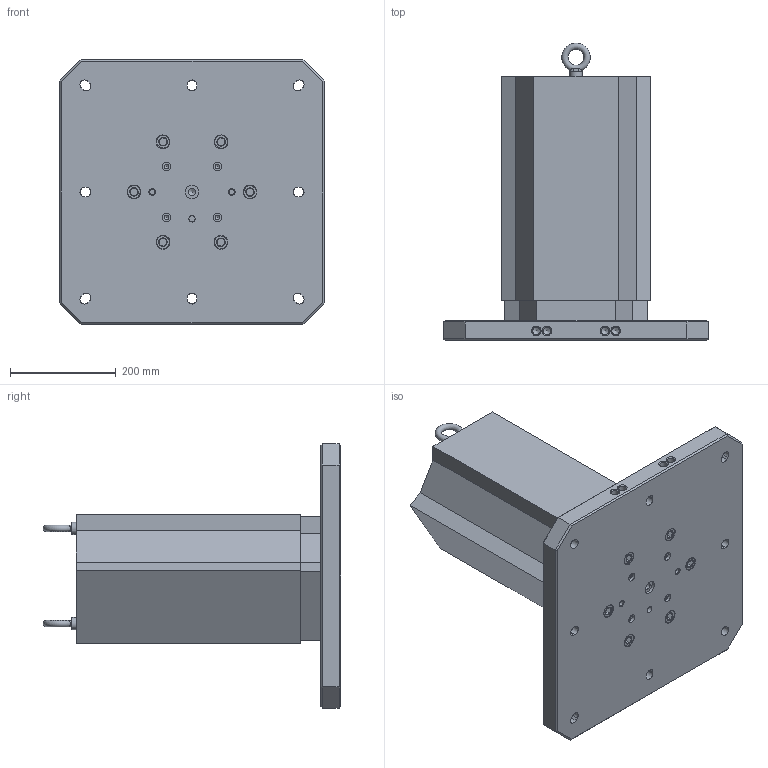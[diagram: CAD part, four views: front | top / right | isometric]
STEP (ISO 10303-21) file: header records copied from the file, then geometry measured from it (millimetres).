
FILE_DESCRIPTION (( 'STEP AP214' ), '1' );
FILE_NAME ('MTA-5003U-500_WEBSITE.step', '2025-08-11T12:53:04', ( '' ), ( '' ), 'SwSTEP 2.0', 'SolidWorks 2024', '' );
FILE_SCHEMA (( 'AUTOMOTIVE_DESIGN' ));
Length unit declared in the file: millimetre
Products named in the file (7): M12X24MM.EB (McM 3040T15)_WEBSITE_3040T15; MTA-5003U-500_WEBSITE; RL96-14TC_WEBSITE; MT-3462A_WEBSITE_MACHINABLE TOWER; HW.76452_dev_WEBSITE_91290A835; HW.76172_WEBSITE; RL96-5003BUA_WEBSITE
Assembly tree (15 placements, depth 2):
  MTA-5003U-500_WEBSITE
    RL96-5003BUA_WEBSITE
    MT-3462A_WEBSITE_MACHINABLE TOWER
    RL96-14TC_WEBSITE
    HW.76172_WEBSITE  x4
    M12X24MM.EB (McM 3040T15)_WEBSITE_3040T15  x2
    HW.76452_dev_WEBSITE_91290A835  x6
Bounding box: 500 x 562.81 x 500 mm (x, y, z)
Volume: 23790274.3 mm3; surface area: 1404694.9 mm2
Topology: 15 solids, 15 shells, 548 faces, 1203 edges, 739 vertices
Faces by surface type: plane 284, cylinder 145, cone 117, torus 2
Full cylindrical faces by diameter (mm): 5 x4, 6 x4, 6.6 x4, 8.5 x4, 10 x4, 10.025 x4, 10.2 x4, 11 x4, 12 x3, 14 x12, 16 x6, 16.02 x4, 17.5 x12, 23 x2, 24 x6, 25.025 x1, 26 x6, 139.7 x1
Entity records: 11490 total; most frequent: CARTESIAN_POINT 1944, DIRECTION 1848, ORIENTED_EDGE 1522, EDGE_CURVE 761, AXIS2_PLACEMENT_3D 701, EDGE_LOOP 594, VERTEX_POINT 547, FACE_OUTER_BOUND 454
